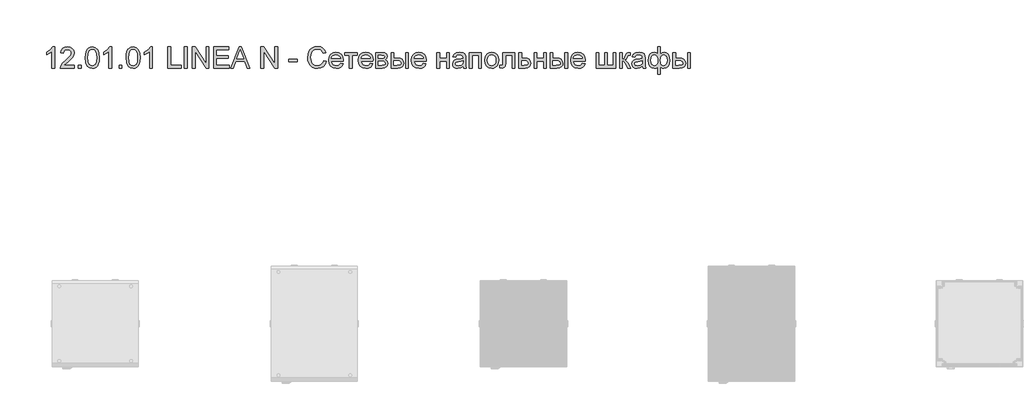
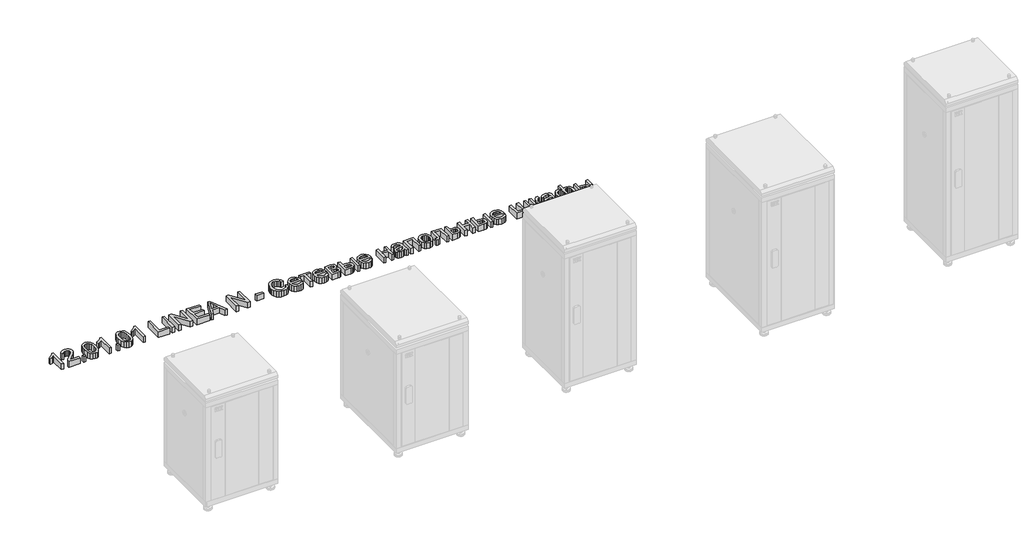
# One storey, part 9 of 9: 1 proxy.
"""IFC4 building model written with IfcOpenShell, lengths in millimetres."""

import ifcopenshell
import ifcopenshell.guid

model = None  # the IFC model being written
_history = None  # IfcOwnerHistory: only IFC2X3 demands one
_inside = {}  # id of a spatial element -> (the spatial element, [elements in it])
_under = {}  # id of a project, library or spatial element -> (it, [spatial elements below it])
_declared = {}  # id of a project -> (the project, [libraries it declares])
_typed = {}  # id of a type object -> (the type object, [elements of that type])
_made_of = {}  # id of a material, layer set ... -> (it, [elements and type objects made of it])


def new_model(schema):
    """Start an empty IFC model of exactly this schema.

    Asked for "IFC4X3", IfcOpenShell would pick the latest addendum, in which some entities
    have other attributes; the version numbers below select the first issue.
    IFC2X3 requires an IfcOwnerHistory on every rooted entity: one is made here for all.
    """
    global model, _history
    if schema == "IFC4X3":
        model = ifcopenshell.file(schema_version=(4, 3, 0, 0))
    else:
        model = ifcopenshell.file(schema=schema)
    _inside.clear()
    _under.clear()
    _declared.clear()
    _typed.clear()
    _made_of.clear()
    _history = None
    if model.schema == "IFC2X3":
        org = make("IfcOrganization", Name="unknown")
        user = make(
            "IfcPersonAndOrganization",
            ThePerson=make("IfcPerson", FamilyName="unknown"),
            TheOrganization=org,
        )
        app = make(
            "IfcApplication",
            ApplicationDeveloper=org,
            Version="unknown",
            ApplicationFullName="unknown",
            ApplicationIdentifier="unknown",
        )
        _history = make(
            "IfcOwnerHistory",
            OwningUser=user,
            OwningApplication=app,
            ChangeAction="ADDED",
            CreationDate=0,
        )
    return model


def make(cls, **values):
    """One entity of the class cls with the attributes given. An attribute that is None is left unset."""
    return model.create_entity(
        cls, **{name: value for name, value in values.items() if value is not None}
    )


def rooted(cls, **values):
    """An entity with a GlobalId (a new one), such as an element, a storey or a relation."""
    return make(cls, GlobalId=ifcopenshell.guid.new(), OwnerHistory=_history, **values)


def si_unit(unit_type, name, prefix=None):
    """IfcSIUnit, for example si_unit("LENGTHUNIT", "METRE", prefix="MILLI")."""
    return make("IfcSIUnit", UnitType=unit_type, Prefix=prefix, Name=name)


def assignment(units):
    """IfcUnitAssignment: the units of a project."""
    return None if units is None else make("IfcUnitAssignment", Units=units)


def point(xyz):
    """IfcCartesianPoint."""
    return None if xyz is None else make("IfcCartesianPoint", Coordinates=xyz)


def direction(xyz):
    """IfcDirection."""
    return None if xyz is None else make("IfcDirection", DirectionRatios=xyz)


def frame(location, z_axis=None, x_axis=None):
    """IfcAxis2Placement3D, a coordinate frame: its origin and axes. An axis left out is left unset."""
    return make(
        "IfcAxis2Placement3D",
        Location=point(location),
        Axis=direction(z_axis),
        RefDirection=direction(x_axis),
    )


def origin():
    """The frame at (0, 0, 0) with its axes left unset."""
    return frame((0.0, 0.0, 0.0))


def origin_with_axes():
    """The frame at (0, 0, 0) with the z axis (0, 0, 1) and the x axis (1, 0, 0) written out."""
    return frame((0.0, 0.0, 0.0), z_axis=(0.0, 0.0, 1.0), x_axis=(1.0, 0.0, 0.0))


def place(relative_to, where):
    """IfcLocalPlacement: puts the frame where relative to a parent placement (None: the world)."""
    return make(
        "IfcLocalPlacement", PlacementRelTo=relative_to, RelativePlacement=where
    )


def context(
    kind, dimensions, precision=None, world=None, true_north=None, identifier=None
):
    """IfcGeometricRepresentationContext, for example the 3D "Model" context."""
    return make(
        "IfcGeometricRepresentationContext",
        ContextIdentifier=identifier,
        ContextType=kind,
        CoordinateSpaceDimension=dimensions,
        Precision=precision,
        WorldCoordinateSystem=world,
        TrueNorth=true_north,
    )


def project(units=None, contexts=None):
    """IfcProject with its units and contexts."""
    return rooted(
        "IfcProject",
        Name="project",
        RepresentationContexts=contexts,
        UnitsInContext=assignment(units),
    )


def spatial(cls, under=None, at=None, **own):
    """A site, building, storey or space (cls), placed at a placement, below another one or the project."""
    s = rooted(cls, ObjectPlacement=at, **own)
    if under is not None:
        _under.setdefault(under.id(), (under, []))[1].append(s)
    return s


def polyline(points):
    """IfcPolyline through the points."""
    return make("IfcPolyline", Points=[point(p) for p in points])


def outline(outer, holes=None, kind="AREA"):
    """IfcArbitraryClosedProfileDef: a profile drawn as a closed curve; with holes, ...WithVoids."""
    if holes is None:
        return make("IfcArbitraryClosedProfileDef", ProfileType=kind, OuterCurve=outer)
    return make(
        "IfcArbitraryProfileDefWithVoids",
        ProfileType=kind,
        OuterCurve=outer,
        InnerCurves=holes,
    )


def extrude(swept, where, along, depth):
    """IfcExtrudedAreaSolid: the profile swept, set in the frame where, extruded along a direction by depth."""
    return make(
        "IfcExtrudedAreaSolid",
        SweptArea=swept,
        Position=where,
        ExtrudedDirection=direction(along),
        Depth=depth,
    )


def shape(context_of_items, identifier, shape_type, items):
    """IfcShapeRepresentation: the items that make up one representation, for example the "Body"."""
    return make(
        "IfcShapeRepresentation",
        ContextOfItems=context_of_items,
        RepresentationIdentifier=identifier,
        RepresentationType=shape_type,
        Items=items,
    )


def made_of(thing, what):
    """Note that an element or type object is made of a material, layer set ...; save() writes the relation."""
    if what is not None:
        _made_of.setdefault(what.id(), (what, []))[1].append(thing)
    return thing


def element(
    cls,
    number,
    at=None,
    inside=None,
    cuts=None,
    type_object=None,
    material=None,
    context=None,
    identifier="Body",
    shape_type=None,
    held_by="IfcProductDefinitionShape",
    body=None,
    shapes=None,
    **own,
):
    """One element of the class cls, such as IfcWall. Its Tag is "e" and its number.

    at: its placement. inside: the storey or other place that contains it. cuts: it is an
    opening in that element (IfcRelVoidsElement). A single representation is given by context,
    identifier, shape_type and body (its items); several are given by shapes. held_by: the class
    of the entity that holds the representations. save() writes the other relations.
    """
    e = rooted(cls, Tag="e%d" % number, ObjectPlacement=at, **own)
    if body is not None:
        shapes = [shape(context, identifier, shape_type, body)]
    if shapes is not None:
        e.Representation = make(held_by, Representations=shapes)
    if inside is not None:
        _inside.setdefault(inside.id(), (inside, []))[1].append(e)
    if cuts is not None:
        rooted(
            "IfcRelVoidsElement", RelatingBuildingElement=cuts, RelatedOpeningElement=e
        )
    if type_object is not None:
        _typed.setdefault(type_object.id(), (type_object, []))[1].append(e)
    return made_of(e, material)


def aggregate(whole, parts):
    """IfcRelAggregates: a whole, such as a stair, and the parts it consists of."""
    return rooted("IfcRelAggregates", RelatingObject=whole, RelatedObjects=parts)


def save(model, path):
    """Write the relations noted so far, then the file.

    IfcRelAggregates (storeys below a building ...), IfcRelContainedInSpatialStructure (elements
    in a storey), IfcRelDefinesByType, IfcRelAssociatesMaterial and IfcRelDeclares: one each for
    every whole, place, type object, material and project.
    """
    for whole, parts in _under.values():
        aggregate(whole, parts)
    for where, things in _inside.values():
        rooted(
            "IfcRelContainedInSpatialStructure",
            RelatedElements=things,
            RelatingStructure=where,
        )
    for kind, things in _typed.values():
        rooted("IfcRelDefinesByType", RelatedObjects=things, RelatingType=kind)
    for what, things in _made_of.values():
        rooted("IfcRelAssociatesMaterial", RelatedObjects=things, RelatingMaterial=what)
    for by, libraries in _declared.values():
        rooted("IfcRelDeclares", RelatingContext=by, RelatedDefinitions=libraries)
    model.write(path)


model = new_model("IFC4")

# Units and contexts
model_context = context("Model", 3, world=origin())
ifc_project = project(units=[si_unit("LENGTHUNIT", "METRE", prefix="MILLI")], contexts=[model_context])

# Site, building, storey
site = spatial("IfcSite", under=ifc_project)
building = spatial("IfcBuilding", under=site)
storey = spatial("IfcBuildingStorey", under=building, Name="Уровень 1", Elevation=0.0)

# Proxy
placement = place(None, origin())
element("IfcBuildingElementProxy", 1, Name="Надпись на модели 1", ObjectType="Надпись на модели 1", at=placement, inside=storey, context=model_context, shape_type="SweptSolid", body=[
    extrude(outline(polyline([(-45259.6762415, 10202.4822585), (-45278.13778, 10202.4822585), (-45278.13778, 10317.5784123), (-45295.6257608, 10305.1204797), (-45315.0608569, 10295.7995662), (-45315.0608569, 10313.2514893), (-45287.9995588, 10330.5231239), (-45271.57528, 10350.1745662), (-45259.6762415, 10350.1745662), (-45259.6762415, 10202.4822585)])), origin_with_axes(), (0.0, 0.0, 1.0), 50.0),
    extrude(outline(polyline([(-45121.2147031, 10220.943797), (-45121.2147031, 10202.4822585), (-45218.13778, 10202.4822585), (-45216.1546069, 10215.2106239), (-45204.9406646, 10234.8079797), (-45181.8276838, 10256.20822), (-45149.9526838, 10286.9654316), (-45143.9761213, 10297.5663931), (-45141.9839338, 10307.8788931), (-45143.8634411, 10317.123184), (-45149.5019627, 10324.8079797), (-45158.1693305, 10329.9867657), (-45169.1353762, 10331.7130277), (-45180.6513016, 10330.0273306), (-45189.5981165, 10324.9702393), (-45195.3718545, 10316.9383883), (-45197.3685492, 10306.3284123), (-45215.8300877, 10308.6361047), (-45211.3544266, 10326.4936768), (-45201.6774435, 10339.537547), (-45187.3039459, 10347.5153114), (-45168.7387415, 10350.1745662), (-45150.0383209, 10347.2178354), (-45135.6918665, 10338.3476431), (-45126.5647632, 10325.0964412), (-45123.5223954, 10308.9966816), (-45126.8036454, 10291.490672), (-45137.7110973, 10273.3897104), (-45164.1594146, 10248.0952393), (-45185.3973954, 10230.3368258), (-45193.7267223, 10220.943797), (-45121.2147031, 10220.943797)])), origin_with_axes(), (0.0, 0.0, 1.0), 50.0),
    extrude(outline(polyline([(-45093.5223954, 10202.4822585), (-45093.5223954, 10220.943797), (-45075.0608569, 10220.943797), (-45075.0608569, 10202.4822585), (-45093.5223954, 10202.4822585)])), origin_with_axes(), (0.0, 0.0, 1.0), 50.0),
    extrude(outline(polyline([(-45045.0608569, 10275.1385085), (-45043.7041863, 10298.778833), (-45039.6341742, 10317.6324989), (-45032.8913858, 10331.9879676), (-45023.5163858, 10342.1337008), (-45011.4415661, 10348.1643498), (-44996.5993185, 10350.1745662), (-44975.0368185, 10345.4149508), (-44960.1449915, 10331.6949989), (-44951.4911454, 10309.8440373), (-44948.13778, 10275.1385085), (-44949.480929, 10251.6334003), (-44953.5103762, 10232.8248066), (-44960.2125997, 10218.4558162), (-44969.5740781, 10208.2695181), (-44981.6759411, 10202.1983042), (-44996.5993185, 10200.1745662), (-45015.7820108, 10203.6901912), (-45030.3493185, 10214.2370662), (-45041.3829723, 10239.2160325), (-45045.0608569, 10275.1385085)]), holes=[polyline([(-45026.5993185, 10275.1745662), (-45024.4358569, 10246.1346023), (-45017.9454723, 10229.3272104), (-45008.2820108, 10221.3088811), (-44996.5993185, 10218.6361047), (-44984.9166262, 10221.3178955), (-44975.2531646, 10229.3632681), (-44968.76278, 10246.1796744), (-44966.5993185, 10275.1745662), (-44968.6906646, 10303.5609845), (-44974.9647031, 10320.4990854), (-44984.6101358, 10328.9095422), (-44996.8156646, 10331.7130277), (-45008.372155, 10329.2430758), (-45017.6570108, 10321.83322), (-45024.3637415, 10303.8404316), (-45026.5993185, 10275.1745662)])]), origin_with_axes(), (0.0, 0.0, 1.0), 50.0),
    extrude(outline(polyline([(-44862.7531646, 10202.4822585), (-44881.2147031, 10202.4822585), (-44881.2147031, 10317.5784123), (-44898.7026838, 10305.1204797), (-44918.13778, 10295.7995662), (-44918.13778, 10313.2514893), (-44891.0764819, 10330.5231239), (-44874.6522031, 10350.1745662), (-44862.7531646, 10350.1745662), (-44862.7531646, 10202.4822585)])), origin_with_axes(), (0.0, 0.0, 1.0), 50.0),
    extrude(outline(polyline([(-44809.6762415, 10202.4822585), (-44809.6762415, 10220.943797), (-44791.2147031, 10220.943797), (-44791.2147031, 10202.4822585), (-44809.6762415, 10202.4822585)])), origin_with_axes(), (0.0, 0.0, 1.0), 50.0),
    extrude(outline(polyline([(-44761.2147031, 10275.1385085), (-44759.8580324, 10298.778833), (-44755.7880204, 10317.6324989), (-44749.0452319, 10331.9879676), (-44739.6702319, 10342.1337008), (-44727.5954122, 10348.1643498), (-44712.7531646, 10350.1745662), (-44691.1906646, 10345.4149508), (-44676.2988377, 10331.6949989), (-44667.6449915, 10309.8440373), (-44664.2916262, 10275.1385085), (-44665.6347752, 10251.6334003), (-44669.6642223, 10232.8248066), (-44676.3664459, 10218.4558162), (-44685.7279242, 10208.2695181), (-44697.8297872, 10202.1983042), (-44712.7531646, 10200.1745662), (-44731.9358569, 10203.6901912), (-44746.5031646, 10214.2370662), (-44757.5368185, 10239.2160325), (-44761.2147031, 10275.1385085)]), holes=[polyline([(-44742.7531646, 10275.1745662), (-44740.5897031, 10246.1346023), (-44734.0993185, 10229.3272104), (-44724.4358569, 10221.3088811), (-44712.7531646, 10218.6361047), (-44701.0704723, 10221.3178955), (-44691.4070108, 10229.3632681), (-44684.9166262, 10246.1796744), (-44682.7531646, 10275.1745662), (-44684.8445108, 10303.5609845), (-44691.1185492, 10320.4990854), (-44700.7639819, 10328.9095422), (-44712.9695108, 10331.7130277), (-44724.5260012, 10329.2430758), (-44733.8108569, 10321.83322), (-44740.5175877, 10303.8404316), (-44742.7531646, 10275.1745662)])]), origin_with_axes(), (0.0, 0.0, 1.0), 50.0),
    extrude(outline(polyline([(-44578.9070108, 10202.4822585), (-44597.3685492, 10202.4822585), (-44597.3685492, 10317.5784123), (-44614.85653, 10305.1204797), (-44634.2916262, 10295.7995662), (-44634.2916262, 10313.2514893), (-44607.2303281, 10330.5231239), (-44590.8060492, 10350.1745662), (-44578.9070108, 10350.1745662), (-44578.9070108, 10202.4822585)])), origin_with_axes(), (0.0, 0.0, 1.0), 50.0),
    extrude(outline(polyline([(-44470.4454723, 10202.4822585), (-44470.4454723, 10350.1745662), (-44451.9839338, 10350.1745662), (-44451.9839338, 10220.943797), (-44378.13778, 10220.943797), (-44378.13778, 10202.4822585), (-44470.4454723, 10202.4822585)])), origin_with_axes(), (0.0, 0.0, 1.0), 50.0),
    extrude(outline(polyline([(-44355.0608569, 10202.4822585), (-44355.0608569, 10350.1745662), (-44336.5993185, 10350.1745662), (-44336.5993185, 10202.4822585), (-44355.0608569, 10202.4822585)])), origin_with_axes(), (0.0, 0.0, 1.0), 50.0),
    extrude(outline(polyline([(-44299.6762415, 10202.4822585), (-44299.6762415, 10350.1745662), (-44279.9166262, 10350.1745662), (-44202.7531646, 10233.1673547), (-44202.7531646, 10350.1745662), (-44184.2916262, 10350.1745662), (-44184.2916262, 10202.4822585), (-44204.0512415, 10202.4822585), (-44281.2147031, 10319.5255277), (-44281.2147031, 10202.4822585), (-44299.6762415, 10202.4822585)])), origin_with_axes(), (0.0, 0.0, 1.0), 50.0),
    extrude(outline(polyline([(-44151.9839338, 10202.4822585), (-44151.9839338, 10350.1745662), (-44045.8300877, 10350.1745662), (-44045.8300877, 10331.7130277), (-44133.5223954, 10331.7130277), (-44133.5223954, 10287.8668739), (-44050.4454723, 10287.8668739), (-44050.4454723, 10269.4053354), (-44133.5223954, 10269.4053354), (-44133.5223954, 10220.943797), (-44043.5223954, 10220.943797), (-44043.5223954, 10202.4822585), (-44151.9839338, 10202.4822585)])), origin_with_axes(), (0.0, 0.0, 1.0), 50.0),
    extrude(outline(polyline([(-44033.0296069, 10202.4822585), (-43974.07528, 10350.1745662), (-43958.3541262, 10350.1745662), (-43899.3997992, 10202.4822585), (-43918.9070108, 10202.4822585), (-43935.8180685, 10248.6361047), (-43996.6473954, 10248.6361047), (-44013.5223954, 10202.4822585), (-44033.0296069, 10202.4822585)]), holes=[polyline([(-43989.8685492, 10267.0976431), (-43942.5608569, 10267.0976431), (-43955.8661454, 10303.4077393), (-43966.2147031, 10331.7130277), (-43975.4094146, 10306.5808162), (-43989.8685492, 10267.0976431)])]), origin_with_axes(), (0.0, 0.0, 1.0), 50.0),
    extrude(outline(polyline([(-43821.9839338, 10202.4822585), (-43821.9839338, 10350.1745662), (-43802.2243185, 10350.1745662), (-43725.0608569, 10233.1673547), (-43725.0608569, 10350.1745662), (-43706.5993185, 10350.1745662), (-43706.5993185, 10202.4822585), (-43726.3589338, 10202.4822585), (-43803.5223954, 10319.5255277), (-43803.5223954, 10202.4822585), (-43821.9839338, 10202.4822585)])), origin_with_axes(), (0.0, 0.0, 1.0), 50.0),
    extrude(outline(polyline([(-43628.13778, 10246.3284123), (-43628.13778, 10264.7899508), (-43570.4454723, 10264.7899508), (-43570.4454723, 10246.3284123), (-43628.13778, 10246.3284123)])), origin_with_axes(), (0.0, 0.0, 1.0), 50.0),
    extrude(outline(polyline([(-43385.8300877, 10254.9822585), (-43367.3685492, 10250.2226431), (-43375.887179, 10228.7097224), (-43389.2555685, 10212.9930758), (-43406.8156646, 10203.3791936), (-43427.9094146, 10200.1745662), (-43449.3231766, 10202.599446), (-43466.3288858, 10209.8740854), (-43479.3637415, 10221.7460806), (-43488.8649435, 10237.9630277), (-43494.6657247, 10257.0285325), (-43496.5993185, 10277.4462008), (-43494.4133209, 10298.9816575), (-43487.8553281, 10317.5784123), (-43477.2678882, 10332.6460205), (-43462.9935492, 10343.5940373), (-43446.0644627, 10350.2602032), (-43427.51278, 10352.4822585), (-43407.270893, 10349.6066575), (-43390.5356165, 10340.9798547), (-43377.8297872, 10327.1337008), (-43369.6762415, 10308.600047), (-43388.13778, 10304.2010085), (-43394.5380204, 10317.6640494), (-43403.2820108, 10326.8993258), (-43414.4779242, 10332.2403715), (-43428.2339338, 10334.02072), (-43444.090304, 10332.0465614), (-43457.1161454, 10326.1240854), (-43467.0004603, 10316.8752873), (-43473.4322512, 10304.9221623), (-43478.13778, 10277.4822585), (-43472.5668665, 10245.6793739), (-43465.4454723, 10233.8028715), (-43455.2231165, 10225.3608643), (-43442.9680084, 10220.3172946), (-43429.7483569, 10218.6361047), (-43414.3382007, 10220.9257681), (-43401.497155, 10227.7947585), (-43391.802143, 10239.1709604), (-43385.8300877, 10254.9822585)])), origin_with_axes(), (0.0, 0.0, 1.0), 50.0),
    extrude(outline(polyline([(-43268.3541262, 10234.7899508), (-43250.2531646, 10232.4822585), (-43256.7750997, 10218.8434364), (-43267.1822512, 10208.6481239), (-43281.2402439, 10202.2929556), (-43298.7147031, 10200.1745662), (-43320.3763617, 10203.8299148), (-43337.04403, 10214.7959604), (-43347.6720348, 10232.3605638), (-43351.2147031, 10255.8115854), (-43347.6359771, 10280.0513691), (-43336.8997992, 10298.1793739), (-43320.4574915, 10309.4834604), (-43299.7603762, 10313.2514893), (-43279.707792, 10309.4924748), (-43263.684655, 10298.2154316), (-43253.1783449, 10280.1234845), (-43249.6762415, 10255.9197585), (-43249.7844146, 10250.943797), (-43332.7531646, 10250.943797), (-43329.5575516, 10237.1246864), (-43322.1341742, 10226.9654316), (-43311.4205324, 10220.7184364), (-43298.3541262, 10218.6361047), (-43280.2531646, 10222.4942777), (-43268.3541262, 10234.7899508)]), holes=[polyline([(-43332.7531646, 10269.4053354), (-43268.13778, 10269.4053354), (-43270.6347752, 10279.1589412), (-43275.5296069, 10286.1361047), (-43286.2928281, 10292.6264893), (-43299.8324915, 10294.7899508), (-43312.2769026, 10293.0636888), (-43322.5668665, 10287.8849027), (-43329.7198113, 10279.8124869), (-43332.7531646, 10269.4053354)])]), origin_with_axes(), (0.0, 0.0, 1.0), 50.0),
    extrude(outline(polyline([(-43240.4454723, 10310.943797), (-43152.7531646, 10310.943797), (-43152.7531646, 10292.4822585), (-43187.3685492, 10292.4822585), (-43187.3685492, 10202.4822585), (-43205.8300877, 10202.4822585), (-43205.8300877, 10292.4822585), (-43240.4454723, 10292.4822585), (-43240.4454723, 10310.943797)])), origin_with_axes(), (0.0, 0.0, 1.0), 50.0),
    extrude(outline(polyline([(-43060.6618185, 10234.7899508), (-43042.5608569, 10232.4822585), (-43049.082792, 10218.8434364), (-43059.4899435, 10208.6481239), (-43073.5479363, 10202.2929556), (-43091.0223954, 10200.1745662), (-43112.684054, 10203.8299148), (-43129.3517223, 10214.7959604), (-43139.9797271, 10232.3605638), (-43143.5223954, 10255.8115854), (-43139.9436694, 10280.0513691), (-43129.2074915, 10298.1793739), (-43112.7651838, 10309.4834604), (-43092.0680685, 10313.2514893), (-43072.0154843, 10309.4924748), (-43055.9923473, 10298.2154316), (-43045.4860372, 10280.1234845), (-43041.9839338, 10255.9197585), (-43042.0921069, 10250.943797), (-43125.0608569, 10250.943797), (-43121.8652439, 10237.1246864), (-43114.4418665, 10226.9654316), (-43103.7282247, 10220.7184364), (-43090.6618185, 10218.6361047), (-43072.5608569, 10222.4942777), (-43060.6618185, 10234.7899508)]), holes=[polyline([(-43125.0608569, 10269.4053354), (-43060.4454723, 10269.4053354), (-43062.9424675, 10279.1589412), (-43067.8372992, 10286.1361047), (-43078.6005204, 10292.6264893), (-43092.1401838, 10294.7899508), (-43104.5845949, 10293.0636888), (-43114.8745588, 10287.8849027), (-43122.0275036, 10279.8124869), (-43125.0608569, 10269.4053354)])]), origin_with_axes(), (0.0, 0.0, 1.0), 50.0),
    extrude(outline(polyline([(-43023.5223954, 10310.943797), (-42982.8493185, 10310.943797), (-42960.5476358, 10308.473845), (-42947.9995588, 10299.4233643), (-42942.7531646, 10283.6481239), (-42945.9262415, 10270.8296143), (-42955.48153, 10261.6889893), (-42943.0776838, 10251.6829797), (-42938.13778, 10234.2851431), (-42941.2657848, 10220.2136287), (-42948.7026838, 10210.3067777), (-42960.4755204, 10204.4383883), (-42976.6113377, 10202.4822585), (-43023.5223954, 10202.4822585), (-43023.5223954, 10310.943797)]), holes=[polyline([(-43005.0608569, 10269.4053354), (-42986.8156646, 10269.4053354), (-42971.7615781, 10270.3428354), (-42964.4418665, 10274.0928354), (-42961.2147031, 10280.8716816), (-42962.6299675, 10286.3794941), (-42966.8757608, 10289.9221623), (-42986.2387415, 10292.4822585), (-43005.0608569, 10292.4822585), (-43005.0608569, 10269.4053354)]), polyline([(-43005.0608569, 10220.943797), (-42982.4166262, 10220.943797), (-42962.3324915, 10224.2791335), (-42958.1768425, 10228.8269099), (-42956.5993185, 10235.7995662), (-42959.7543665, 10244.6877873), (-42967.9755204, 10249.8620662), (-42984.2195108, 10250.943797), (-43005.0608569, 10250.943797), (-43005.0608569, 10220.943797)])]), origin_with_axes(), (0.0, 0.0, 1.0), 50.0),
    extrude(outline(polyline([(-42915.0608569, 10310.943797), (-42896.5993185, 10310.943797), (-42896.5993185, 10271.7130277), (-42873.7747992, 10271.7130277), (-42854.0467343, 10269.4008282), (-42839.4298473, 10262.4642297), (-42830.3838738, 10251.4621263), (-42827.3685492, 10236.9534123), (-42829.8970949, 10223.7427753), (-42837.4827319, 10212.5964412), (-42850.6212536, 10205.0108042), (-42869.8084531, 10202.4822585), (-42915.0608569, 10202.4822585), (-42915.0608569, 10310.943797)]), holes=[polyline([(-42896.5993185, 10220.943797), (-42877.6329723, 10220.943797), (-42853.1497992, 10224.8199989), (-42847.6600156, 10229.7824388), (-42845.8300877, 10236.9173547), (-42851.2567704, 10248.2755277), (-42859.9601959, 10252.0074989), (-42875.2171069, 10253.2514893), (-42896.5993185, 10253.2514893), (-42896.5993185, 10220.943797)])]), origin_with_axes(), (0.0, 0.0, 1.0), 50.0),
    extrude(outline(polyline([(-42813.5223954, 10310.943797), (-42795.0608569, 10310.943797), (-42795.0608569, 10202.4822585), (-42813.5223954, 10202.4822585), (-42813.5223954, 10310.943797)])), origin_with_axes(), (0.0, 0.0, 1.0), 50.0),
    extrude(outline(polyline([(-42691.4310492, 10234.7899508), (-42673.3300877, 10232.4822585), (-42679.8520228, 10218.8434364), (-42690.2591742, 10208.6481239), (-42704.317167, 10202.2929556), (-42721.7916262, 10200.1745662), (-42743.4532848, 10203.8299148), (-42760.1209531, 10214.7959604), (-42770.7489579, 10232.3605638), (-42774.2916262, 10255.8115854), (-42770.7129002, 10280.0513691), (-42759.9767223, 10298.1793739), (-42743.5344146, 10309.4834604), (-42722.8372992, 10313.2514893), (-42702.7847151, 10309.4924748), (-42686.7615781, 10298.2154316), (-42676.255268, 10280.1234845), (-42672.7531646, 10255.9197585), (-42672.8613377, 10250.943797), (-42755.8300877, 10250.943797), (-42752.6344747, 10237.1246864), (-42745.2110973, 10226.9654316), (-42734.4974555, 10220.7184364), (-42721.4310492, 10218.6361047), (-42703.3300877, 10222.4942777), (-42691.4310492, 10234.7899508)]), holes=[polyline([(-42755.8300877, 10269.4053354), (-42691.2147031, 10269.4053354), (-42693.7116983, 10279.1589412), (-42698.60653, 10286.1361047), (-42709.3697512, 10292.6264893), (-42722.9094146, 10294.7899508), (-42735.3538257, 10293.0636888), (-42745.6437896, 10287.8849027), (-42752.7967343, 10279.8124869), (-42755.8300877, 10269.4053354)])]), origin_with_axes(), (0.0, 0.0, 1.0), 50.0),
    extrude(outline(polyline([(-42596.5993185, 10310.943797), (-42578.13778, 10310.943797), (-42578.13778, 10269.4053354), (-42529.6762415, 10269.4053354), (-42529.6762415, 10310.943797), (-42511.2147031, 10310.943797), (-42511.2147031, 10202.4822585), (-42529.6762415, 10202.4822585), (-42529.6762415, 10250.943797), (-42578.13778, 10250.943797), (-42578.13778, 10202.4822585), (-42596.5993185, 10202.4822585), (-42596.5993185, 10310.943797)])), origin_with_axes(), (0.0, 0.0, 1.0), 50.0),
    extrude(outline(polyline([(-42414.2916262, 10216.3284123), (-42432.1942704, 10203.8163931), (-42451.9719146, 10200.1745662), (-42467.4000997, 10202.365071), (-42478.7808088, 10208.9365854), (-42485.7985372, 10218.9155518), (-42488.13778, 10231.3284123), (-42484.6041262, 10245.9317777), (-42475.3192704, 10256.5327393), (-42462.3925877, 10262.5904316), (-42446.41903, 10265.3668739), (-42414.3997992, 10271.7130277), (-42414.2916262, 10275.8236047), (-42415.5626598, 10284.0627873), (-42419.3757608, 10289.4534123), (-42427.903405, 10293.4558162), (-42439.7844146, 10294.7899508), (-42458.4622992, 10291.2382681), (-42467.3685492, 10278.6361047), (-42485.8300877, 10280.943797), (-42477.8433088, 10298.9726431), (-42461.7615781, 10309.537547), (-42437.4046069, 10313.2514893), (-42415.0308088, 10309.9702393), (-42402.3925877, 10301.7310566), (-42396.73153, 10289.2010085), (-42395.8300877, 10273.0471623), (-42395.8300877, 10250.0784123), (-42394.8925877, 10218.005095), (-42391.2147031, 10202.4822585), (-42409.6762415, 10202.4822585), (-42414.2916262, 10216.3284123)]), holes=[polyline([(-42414.2916262, 10253.2514893), (-42444.07528, 10247.5904316), (-42459.9586935, 10244.5976431), (-42467.1522031, 10239.7298547), (-42469.6762415, 10232.6264893), (-42464.1774435, 10222.6385085), (-42448.0416262, 10218.6361047), (-42429.3637415, 10223.053172), (-42417.3204723, 10233.7442777), (-42414.3997992, 10248.0231239), (-42414.2916262, 10253.2514893)])]), origin_with_axes(), (0.0, 0.0, 1.0), 50.0),
    extrude(outline(polyline([(-42370.4454723, 10310.943797), (-42287.3685492, 10310.943797), (-42287.3685492, 10202.4822585), (-42305.8300877, 10202.4822585), (-42305.8300877, 10292.4822585), (-42351.9839338, 10292.4822585), (-42351.9839338, 10202.4822585), (-42370.4454723, 10202.4822585), (-42370.4454723, 10310.943797)])), origin_with_axes(), (0.0, 0.0, 1.0), 50.0),
    extrude(outline(polyline([(-42264.2916262, 10256.7130277), (-42260.2982367, 10282.8638691), (-42248.3180685, 10301.2442777), (-42233.5163858, 10310.2496864), (-42215.79403, 10313.2514893), (-42196.3994988, 10309.5961407), (-42180.9082127, 10298.630095), (-42170.7534651, 10281.2187369), (-42167.3685492, 10258.2274508), (-42168.8649435, 10239.5766095), (-42173.3541262, 10225.3788931), (-42180.7053882, 10214.7463811), (-42190.7880204, 10206.7911527), (-42202.7636814, 10201.8287128), (-42215.79403, 10200.1745662), (-42235.4229363, 10203.8163931), (-42250.8961935, 10214.7418739), (-42260.942768, 10232.5183162), (-42264.2916262, 10256.7130277)]), holes=[polyline([(-42245.8300877, 10256.7490854), (-42243.6936694, 10240.0408523), (-42237.2844146, 10228.1373066), (-42227.6389819, 10221.0114051), (-42215.79403, 10218.6361047), (-42204.0031646, 10221.0249268), (-42194.3757608, 10228.1913931), (-42187.966506, 10240.2526912), (-42185.8300877, 10257.3260085), (-42187.9800276, 10273.5474628), (-42194.4298473, 10285.2887489), (-42204.0707728, 10292.4146503), (-42215.79403, 10294.7899508), (-42227.6389819, 10292.4236648), (-42237.2844146, 10285.3248066), (-42243.6936694, 10273.4483042), (-42245.8300877, 10256.7490854)])]), origin_with_axes(), (0.0, 0.0, 1.0), 50.0),
    extrude(outline(polyline([(-42137.3685492, 10310.943797), (-42054.2916262, 10310.943797), (-42054.2916262, 10202.5904316), (-42072.7531646, 10202.5904316), (-42072.7531646, 10292.4822585), (-42118.9070108, 10292.4822585), (-42118.9070108, 10240.73947), (-42120.1510012, 10216.8692777), (-42126.9839338, 10206.7911527), (-42143.13778, 10202.4822585), (-42158.13778, 10203.4197585), (-42158.13778, 10220.943797), (-42149.8805685, 10220.943797), (-42141.5332127, 10222.0796143), (-42138.1978762, 10225.6853835), (-42137.3685492, 10241.7851431), (-42137.3685492, 10310.943797)])), origin_with_axes(), (0.0, 0.0, 1.0), 50.0),
    extrude(outline(polyline([(-42026.5993185, 10310.943797), (-42008.13778, 10310.943797), (-42008.13778, 10271.7130277), (-41986.8637415, 10271.7130277), (-41968.4202319, 10269.4008282), (-41954.7723954, 10262.4642297), (-41946.3348954, 10251.4621263), (-41943.5223954, 10236.9534123), (-41945.9157247, 10223.7427753), (-41953.0957127, 10212.5964412), (-41965.5401238, 10205.0108042), (-41983.7267223, 10202.4822585), (-42026.5993185, 10202.4822585), (-42026.5993185, 10310.943797)]), holes=[polyline([(-42008.13778, 10220.943797), (-41990.9022031, 10220.943797), (-41968.6365781, 10224.8199989), (-41963.6470949, 10229.7824388), (-41961.9839338, 10236.9173547), (-41966.9058088, 10248.2755277), (-41974.8159651, 10252.0074989), (-41988.7026838, 10253.2514893), (-42008.13778, 10253.2514893), (-42008.13778, 10220.943797)])]), origin_with_axes(), (0.0, 0.0, 1.0), 50.0),
    extrude(outline(polyline([(-41920.4454723, 10310.943797), (-41901.9839338, 10310.943797), (-41901.9839338, 10269.4053354), (-41853.5223954, 10269.4053354), (-41853.5223954, 10310.943797), (-41835.0608569, 10310.943797), (-41835.0608569, 10202.4822585), (-41853.5223954, 10202.4822585), (-41853.5223954, 10250.943797), (-41901.9839338, 10250.943797), (-41901.9839338, 10202.4822585), (-41920.4454723, 10202.4822585), (-41920.4454723, 10310.943797)])), origin_with_axes(), (0.0, 0.0, 1.0), 50.0),
    extrude(outline(polyline([(-41807.3685492, 10310.943797), (-41788.9070108, 10310.943797), (-41788.9070108, 10271.7130277), (-41766.0824915, 10271.7130277), (-41746.3544266, 10269.4008282), (-41731.7375396, 10262.4642297), (-41722.6915661, 10251.4621263), (-41719.6762415, 10236.9534123), (-41722.2047872, 10223.7427753), (-41729.7904242, 10212.5964412), (-41742.9289459, 10205.0108042), (-41762.1161454, 10202.4822585), (-41807.3685492, 10202.4822585), (-41807.3685492, 10310.943797)]), holes=[polyline([(-41788.9070108, 10220.943797), (-41769.9406646, 10220.943797), (-41745.4574915, 10224.8199989), (-41739.9677079, 10229.7824388), (-41738.13778, 10236.9173547), (-41743.5644627, 10248.2755277), (-41752.2678882, 10252.0074989), (-41767.5247992, 10253.2514893), (-41788.9070108, 10253.2514893), (-41788.9070108, 10220.943797)])]), origin_with_axes(), (0.0, 0.0, 1.0), 50.0),
    extrude(outline(polyline([(-41705.8300877, 10310.943797), (-41687.3685492, 10310.943797), (-41687.3685492, 10202.4822585), (-41705.8300877, 10202.4822585), (-41705.8300877, 10310.943797)])), origin_with_axes(), (0.0, 0.0, 1.0), 50.0),
    extrude(outline(polyline([(-41583.7387415, 10234.7899508), (-41565.63778, 10232.4822585), (-41572.1597151, 10218.8434364), (-41582.5668665, 10208.6481239), (-41596.6248593, 10202.2929556), (-41614.0993185, 10200.1745662), (-41635.7609771, 10203.8299148), (-41652.4286454, 10214.7959604), (-41663.0566502, 10232.3605638), (-41666.5993185, 10255.8115854), (-41663.0205925, 10280.0513691), (-41652.2844146, 10298.1793739), (-41635.8421069, 10309.4834604), (-41615.1449915, 10313.2514893), (-41595.0924074, 10309.4924748), (-41579.0692704, 10298.2154316), (-41568.5629603, 10280.1234845), (-41565.0608569, 10255.9197585), (-41565.16903, 10250.943797), (-41648.13778, 10250.943797), (-41644.942167, 10237.1246864), (-41637.5187896, 10226.9654316), (-41626.8051478, 10220.7184364), (-41613.7387415, 10218.6361047), (-41595.63778, 10222.4942777), (-41583.7387415, 10234.7899508)]), holes=[polyline([(-41648.13778, 10269.4053354), (-41583.5223954, 10269.4053354), (-41586.0193906, 10279.1589412), (-41590.9142223, 10286.1361047), (-41601.6774435, 10292.6264893), (-41615.2171069, 10294.7899508), (-41627.661518, 10293.0636888), (-41637.9514819, 10287.8849027), (-41645.1044266, 10279.8124869), (-41648.13778, 10269.4053354)])]), origin_with_axes(), (0.0, 0.0, 1.0), 50.0),
    extrude(outline(polyline([(-41488.9070108, 10310.943797), (-41470.4454723, 10310.943797), (-41470.4454723, 10220.943797), (-41428.9070108, 10220.943797), (-41428.9070108, 10310.943797), (-41410.4454723, 10310.943797), (-41410.4454723, 10220.943797), (-41368.9070108, 10220.943797), (-41368.9070108, 10310.943797), (-41350.4454723, 10310.943797), (-41350.4454723, 10202.4822585), (-41488.9070108, 10202.4822585), (-41488.9070108, 10310.943797)])), origin_with_axes(), (0.0, 0.0, 1.0), 50.0),
    extrude(outline(polyline([(-41325.0608569, 10310.943797), (-41306.5993185, 10310.943797), (-41306.5993185, 10264.7899508), (-41294.23153, 10268.1072585), (-41284.0993185, 10287.4341816), (-41275.6798473, 10304.1108643), (-41268.2519627, 10309.537547), (-41254.7483569, 10310.943797), (-41251.2147031, 10310.943797), (-41251.2147031, 10292.3740854), (-41256.1906646, 10292.4822585), (-41265.2050877, 10290.5351431), (-41271.5512415, 10278.3837008), (-41278.997155, 10265.240672), (-41289.4358569, 10258.8043739), (-41277.7892223, 10251.6198787), (-41266.3589338, 10236.4846623), (-41246.5993185, 10202.4822585), (-41267.5848954, 10202.4822585), (-41286.9478762, 10235.7635085), (-41296.6834531, 10249.8440373), (-41306.5993185, 10253.2514893), (-41306.5993185, 10202.4822585), (-41325.0608569, 10202.4822585), (-41325.0608569, 10310.943797)])), origin_with_axes(), (0.0, 0.0, 1.0), 50.0),
    extrude(outline(polyline([(-41165.8300877, 10216.3284123), (-41183.7327319, 10203.8163931), (-41203.5103762, 10200.1745662), (-41218.9385613, 10202.365071), (-41230.3192704, 10208.9365854), (-41237.3369988, 10218.9155518), (-41239.6762415, 10231.3284123), (-41236.1425877, 10245.9317777), (-41226.8577319, 10256.5327393), (-41213.9310492, 10262.5904316), (-41197.9574915, 10265.3668739), (-41165.9382608, 10271.7130277), (-41165.8300877, 10275.8236047), (-41167.1011213, 10284.0627873), (-41170.9142223, 10289.4534123), (-41179.4418665, 10293.4558162), (-41191.3228762, 10294.7899508), (-41210.0007608, 10291.2382681), (-41218.9070108, 10278.6361047), (-41237.3685492, 10280.943797), (-41229.3817704, 10298.9726431), (-41213.3000396, 10309.537547), (-41188.9430685, 10313.2514893), (-41166.5692704, 10309.9702393), (-41153.9310492, 10301.7310566), (-41148.2699915, 10289.2010085), (-41147.3685492, 10273.0471623), (-41147.3685492, 10250.0784123), (-41146.4310492, 10218.005095), (-41142.7531646, 10202.4822585), (-41161.2147031, 10202.4822585), (-41165.8300877, 10216.3284123)]), holes=[polyline([(-41165.8300877, 10253.2514893), (-41195.6137415, 10247.5904316), (-41211.497155, 10244.5976431), (-41218.6906646, 10239.7298547), (-41221.2147031, 10232.6264893), (-41215.715905, 10222.6385085), (-41199.5800877, 10218.6361047), (-41180.9022031, 10223.053172), (-41168.8589338, 10233.7442777), (-41165.9382608, 10248.0231239), (-41165.8300877, 10253.2514893)])]), origin_with_axes(), (0.0, 0.0, 1.0), 50.0),
    extrude(outline(polyline([(-41059.6762415, 10350.1745662), (-41041.2147031, 10350.1745662), (-41041.2147031, 10300.5231239), (-41029.4779242, 10310.0964412), (-41015.7219146, 10313.2514893), (-40999.5635613, 10309.240071), (-40987.1461935, 10297.2058162), (-40979.2360372, 10279.0868258), (-40976.5993185, 10256.8212008), (-40979.4388617, 10233.8749869), (-40987.9574915, 10215.8055758), (-41000.6948713, 10204.0823186), (-41016.1906646, 10200.1745662), (-41027.4767223, 10201.9774508), (-41041.2147031, 10211.8212008), (-41041.2147031, 10160.943797), (-41059.6762415, 10160.943797), (-41059.6762415, 10211.8212008), (-41071.4671069, 10203.0952393), (-41085.4214338, 10200.1745662), (-41100.8901838, 10203.9065373), (-41114.2675877, 10215.1024508), (-41123.5163858, 10233.2484845), (-41126.5993185, 10257.8308162), (-41123.8093545, 10279.474446), (-41115.4394627, 10297.3139893), (-41102.3550276, 10309.2671143), (-41085.4214338, 10313.2514893), (-41071.1245588, 10310.0964412), (-41059.6762415, 10300.5231239), (-41059.6762415, 10350.1745662)]), holes=[polyline([(-41041.3228762, 10256.3885085), (-41039.785917, 10237.6971023), (-41035.1750396, 10226.334422), (-41028.2474555, 10220.560684), (-41019.7603762, 10218.6361047), (-41010.2726959, 10221.0023907), (-41002.2904242, 10228.1012489), (-40996.8682488, 10240.185083), (-40995.0608569, 10257.506297), (-40996.7285252, 10273.9305758), (-41001.73153, 10285.5591816), (-41009.3487175, 10292.4822585), (-41018.8589338, 10294.7899508), (-41028.6531045, 10292.3876071), (-41035.6798473, 10285.1805758), (-41039.9121189, 10273.1778715), (-41041.3228762, 10256.3885085)]), polyline([(-41108.13778, 10258.2274508), (-41106.2898233, 10240.1174748), (-41100.7459531, 10227.9029316), (-41092.4616983, 10220.9528114), (-41082.3925877, 10218.6361047), (-41072.3730564, 10220.9392898), (-41065.247155, 10227.848845), (-41060.9878401, 10239.3647705), (-41059.5680685, 10255.4870662), (-41061.0599555, 10272.6820782), (-41065.5356165, 10284.9642297), (-41073.0220949, 10292.3335205), (-41083.5464338, 10294.7899508), (-41093.4262415, 10292.3921143), (-41101.2868185, 10285.1986047), (-41106.4250396, 10273.6601431), (-41108.13778, 10258.2274508)])]), origin_with_axes(), (0.0, 0.0, 1.0), 50.0),
    extrude(outline(polyline([(-40851.9839338, 10310.943797), (-40833.5223954, 10310.943797), (-40833.5223954, 10202.4822585), (-40851.9839338, 10202.4822585), (-40851.9839338, 10310.943797)])), origin_with_axes(), (0.0, 0.0, 1.0), 50.0),
    extrude(outline(polyline([(-40953.5223954, 10310.943797), (-40935.0608569, 10310.943797), (-40935.0608569, 10271.7130277), (-40912.2363377, 10271.7130277), (-40892.5082728, 10269.4008282), (-40877.8913858, 10262.4642297), (-40868.8454122, 10251.4621263), (-40865.8300877, 10236.9534123), (-40868.3586334, 10223.7427753), (-40875.9442704, 10212.5964412), (-40889.082792, 10205.0108042), (-40908.2699915, 10202.4822585), (-40953.5223954, 10202.4822585), (-40953.5223954, 10310.943797)]), holes=[polyline([(-40935.0608569, 10220.943797), (-40916.0945108, 10220.943797), (-40891.6113377, 10224.8199989), (-40886.121554, 10229.7824388), (-40884.2916262, 10236.9173547), (-40889.7183088, 10248.2755277), (-40898.4217343, 10252.0074989), (-40913.6786454, 10253.2514893), (-40935.0608569, 10253.2514893), (-40935.0608569, 10220.943797)])]), origin_with_axes(), (0.0, 0.0, 1.0), 50.0),
])

save(model, "model.ifc")
